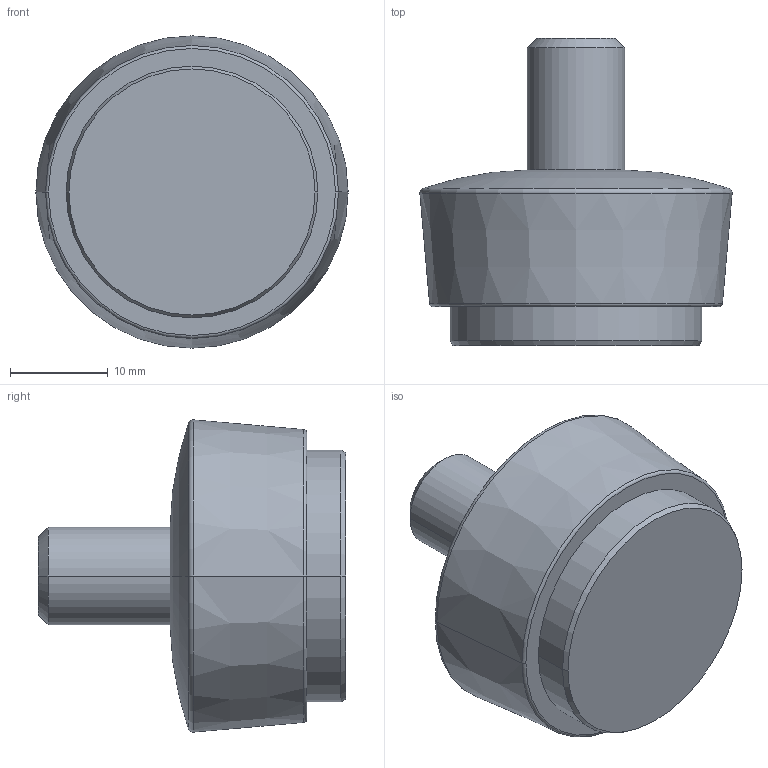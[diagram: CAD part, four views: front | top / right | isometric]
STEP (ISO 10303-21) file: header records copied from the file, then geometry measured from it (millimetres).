
FILE_DESCRIPTION (( 'STEP AP203' ), '1' );
FILE_NAME ('A888-32-10.STEP', '2019-02-21T07:24:07', ( '' ), ( '' ), 'SwSTEP 2.0', 'SolidWorks 2018', '' );
FILE_SCHEMA (( 'CONFIG_CONTROL_DESIGN' ));
Length unit declared in the file: millimetre
Products named in the file (1): A888-32-10
Bounding box: 32 x 31.5 x 32 mm (x, y, z)
Volume: 13172.7 mm3; surface area: 3393.9 mm2
Topology: 1 solids, 1 shells, 19 faces, 36 edges, 20 vertices
Faces by surface type: torus 6, cone 6, cylinder 4, plane 3
Entity records: 557 total; most frequent: DIRECTION 102, CARTESIAN_POINT 76, ORIENTED_EDGE 72, AXIS2_PLACEMENT_3D 46, EDGE_CURVE 36, CIRCLE 26, EDGE_LOOP 20, VERTEX_POINT 20
